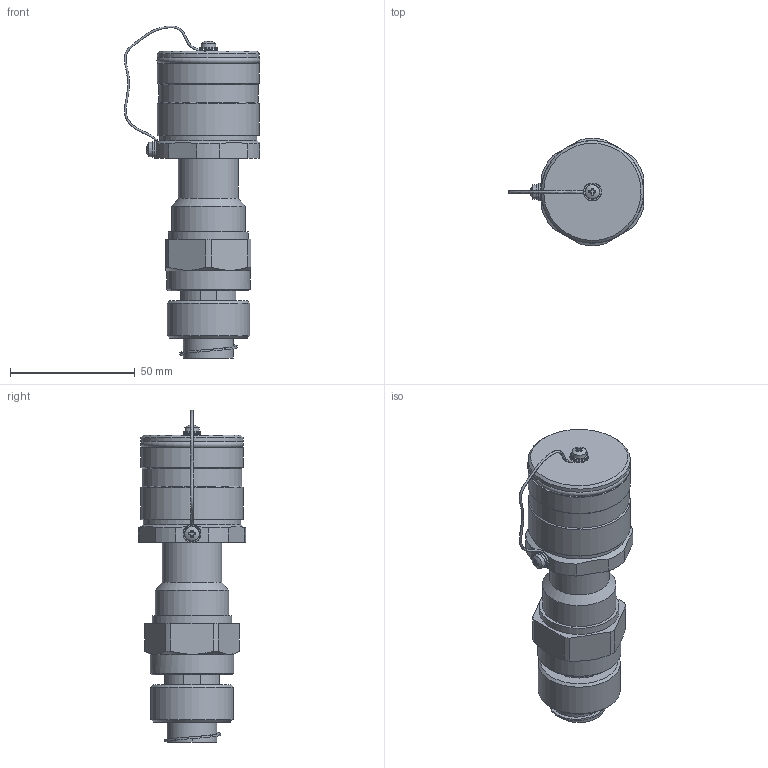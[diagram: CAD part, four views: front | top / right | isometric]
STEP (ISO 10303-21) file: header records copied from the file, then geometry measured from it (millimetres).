
FILE_DESCRIPTION (( 'STEP AP203' ), '1' );
FILE_NAME ('陏昃-24DC-7-狉昐20.STEP', '2021-11-19T11:49:01', ( '' ), ( '' ), 'SwSTEP 2.0', 'SolidWorks 2018', '' );
FILE_SCHEMA (( 'CONFIG_CONTROL_DESIGN' ));
Length unit declared in the file: millimetre
Products named in the file (1): 陏昃-24DC-7-狉昐20
Bounding box: 54.34 x 42.89 x 133.03 mm (x, y, z)
Volume: 90817.8 mm3; surface area: 27697.1 mm2
Topology: 1 solids, 1 shells, 227 faces, 551 edges, 354 vertices
Faces by surface type: plane 112, cylinder 64, cone 43, torus 3, bspline 3, sphere 2
Full cylindrical faces by diameter (mm): 2.75 x2, 3 x2, 3.2 x2, 3.5 x2, 7 x3, 18 x1, 20 x1, 20.4 x1, 22 x2, 24 x1, 24.5 x1, 25 x1, 28 x1, 29.5 x1, 29.835 x1, 32 x1, 33 x1, 33.5 x1, 36 x1, 39 x1, 39.8 x1, 40 x1, 41 x3
Entity records: 6950 total; most frequent: CARTESIAN_POINT 1901, DIRECTION 1061, ORIENTED_EDGE 954, EDGE_CURVE 477, AXIS2_PLACEMENT_3D 434, VERTEX_POINT 336, EDGE_LOOP 313, FACE_OUTER_BOUND 263
